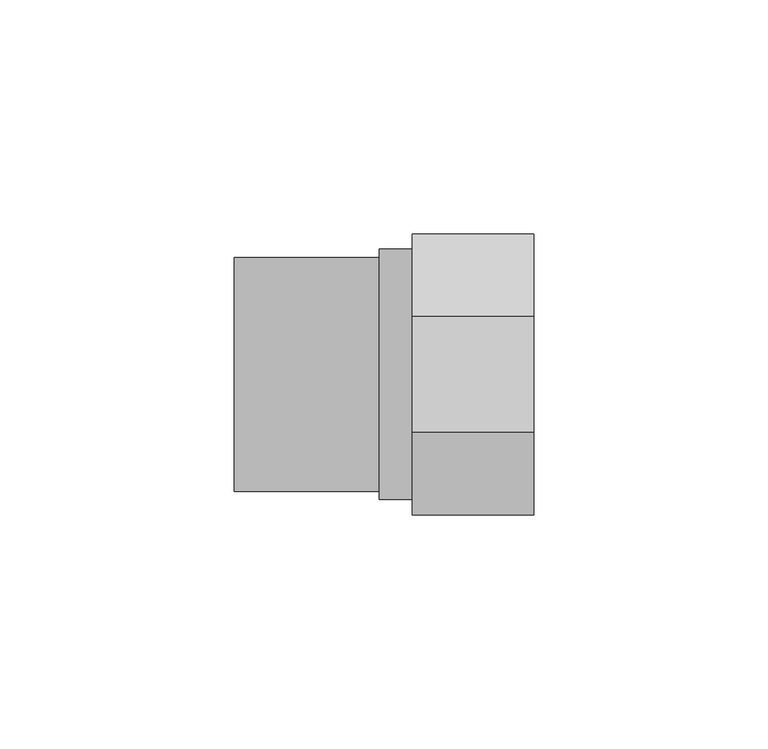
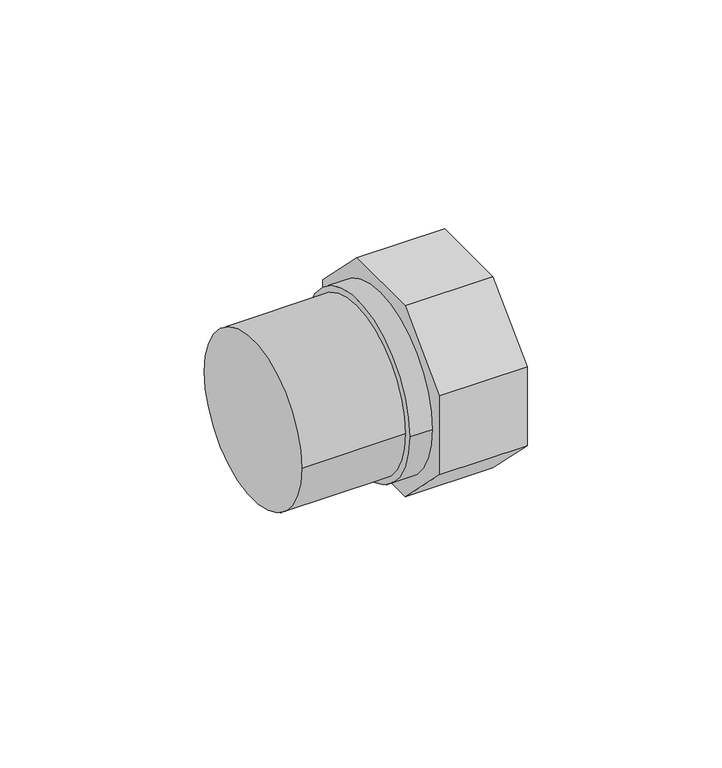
"""IFC4 building model written with IfcOpenShell, lengths in millimetres: pipe fitting geometry, PipeFitting_GirpiHTA_CPVC_ThreadedAdaptors_ForExpansionJoints : PipeFitting_GirpiHTA_CPVC_ThreadedAdaptors_ForExpansionJoints."""

from ifc_helpers import new_model, si_unit, point, frame, origin, origin_2d, place, context, project, spatial, polyline, circle_curve, trimmed, segment, composite_curve, outline, extrude, source, transform, mapped, element, save


def pipe_fitting_aa44475f(model_context):
    return source(origin(), model_context, "Body", "SweptSolid", [
        extrude(outline(polyline([(-12.4264069, 30.0), (12.4264069, 30.0), (30.0, 12.4264069), (30.0, -12.4264069), (12.4264069, -30.0), (-12.4264069, -30.0), (-30.0, -12.4264069), (-30.0, 12.4264069), (-12.4264069, 30.0)])), frame((22.5, 0.0, 0.0), z_axis=(1.0, 0.0, 0.0), x_axis=(0.0, 1.0, 0.0)), (0.0, 0.0, 1.0), 26.0),
        extrude(outline(composite_curve([segment(trimmed(circle_curve(origin_2d(), 26.75), [point((26.75, 0.0))], [point((-26.75, 0.0))], False, "CARTESIAN"), True, "CONTINUOUS"), segment(trimmed(circle_curve(origin_2d(), 26.75), [point((-26.75, 0.0))], [point((26.75, 0.0))], False, "CARTESIAN"), True, "CONTINUOUS")], self_intersect=False)), frame((15.5, 0.0, 0.0), z_axis=(1.0, 0.0, 0.0), x_axis=(0.0, 1.0, 0.0)), (0.0, 0.0, 1.0), 7.0),
        extrude(outline(composite_curve([segment(trimmed(circle_curve(origin_2d(), 25.0), [point((25.0, 0.0))], [point((-25.0, 0.0))], False, "CARTESIAN"), True, "CONTINUOUS"), segment(trimmed(circle_curve(origin_2d(), 25.0), [point((-25.0, 0.0))], [point((25.0, 0.0))], False, "CARTESIAN"), True, "CONTINUOUS")], self_intersect=False)), frame((-15.5, 0.0, 0.0), z_axis=(1.0, 0.0, 0.0), x_axis=(0.0, 1.0, 0.0)), (0.0, 0.0, 1.0), 31.0),
    ])


if __name__ == "__main__":
    model = new_model("IFC4")
    model_context = context("Model", 3, world=origin())
    ifc_project = project(units=[si_unit("LENGTHUNIT", "METRE", prefix="MILLI")], contexts=[model_context])
    site = spatial("IfcSite", under=ifc_project)
    building = spatial("IfcBuilding", under=site)
    placement = place(None, origin())
    pipe_fitting_shape = pipe_fitting_aa44475f(model_context)
    element("IfcPipeFitting", 1, ObjectType="PipeFitting_GirpiHTA_CPVC_ThreadedAdaptors_ForExpansionJoints : PipeFitting_GirpiHTA_CPVC_ThreadedAdaptors_ForExpansionJoints", at=placement, inside=building, context=model_context, shape_type="MappedRepresentation", body=[
        mapped(pipe_fitting_shape, transform((0.0, 0.0, 0.0), x_axis=(1.0, 0.0, 0.0), y_axis=(0.0, 1.0, 0.0), z_axis=(0.0, 0.0, 1.0))),
    ])
    save(model, "model.ifc")
